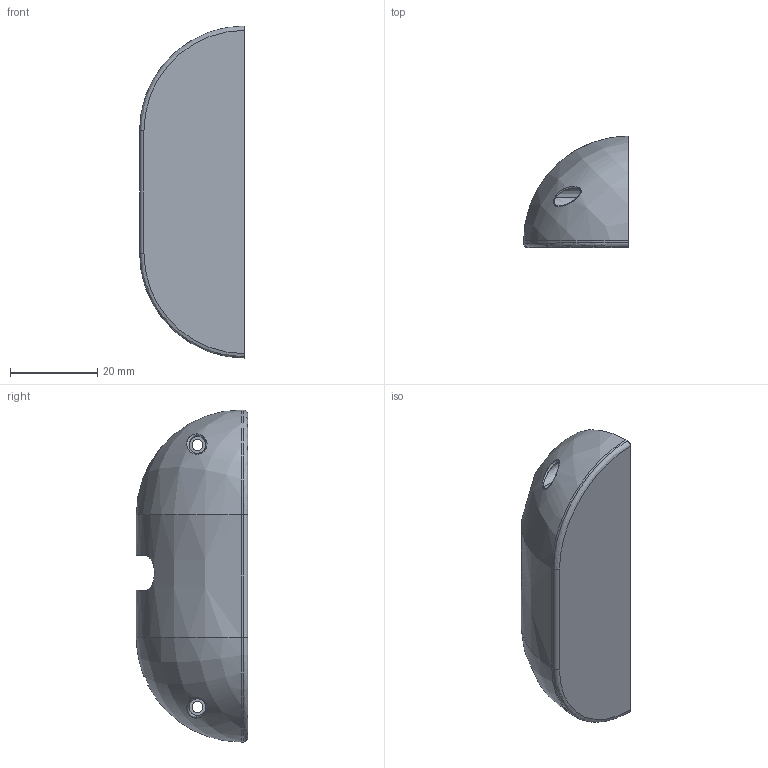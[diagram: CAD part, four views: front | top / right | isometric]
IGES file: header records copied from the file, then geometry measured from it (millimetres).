
Global section: file name: Filename.iges; native system: Open CASCADE 7.5; preprocessor: Open CASCADE IGES processor 7.5; date: 20210414.164134; units: millimetre
Bounding box: 24 x 25.5 x 76 mm (x, y, z)
Surface area: 10468.6 mm2 (no closed solid volume)
Topology: 0 solids, 0 shells, 78 faces, 410 edges, 410 vertices
Faces by surface type: bspline 43, revolution 35
